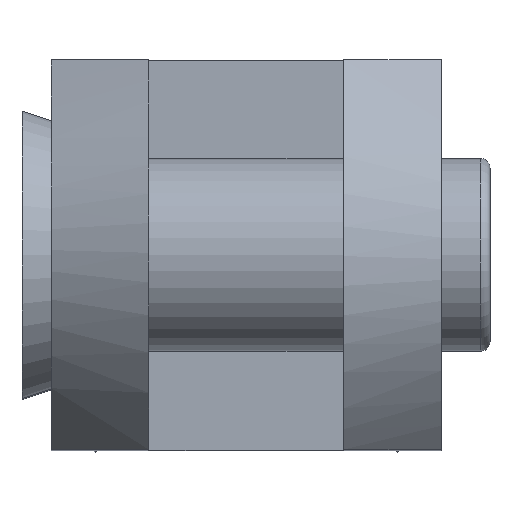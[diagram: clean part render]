
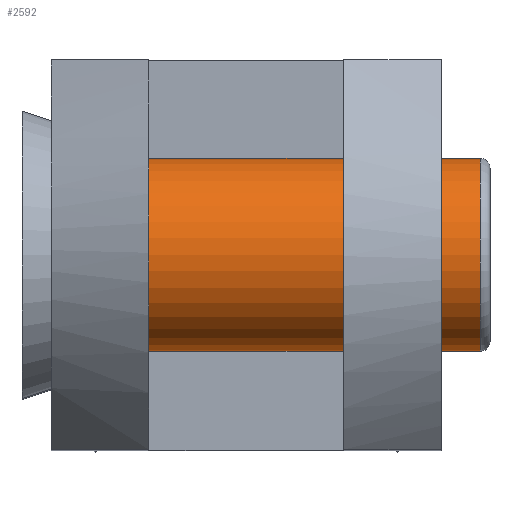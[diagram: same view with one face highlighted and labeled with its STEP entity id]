
A CAD part, top view. The second image highlights one B-rep face of the part: STEP entity #2592.
In plain terms, the highlighted cylindrical face has radius 9.9 mm (diameter 19.8 mm), a partial arc.
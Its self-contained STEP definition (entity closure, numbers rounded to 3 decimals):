
#2543=CARTESIAN_POINT('Axis2P3D Location',(-10.,0.,65.353)) ;
#2547=CARTESIAN_POINT('Vertex',(-10.,-9.9,65.353)) ;
#2549=CARTESIAN_POINT('Vertex',(-10.,9.9,65.353)) ;
#2562=CARTESIAN_POINT('Axis2P3D Location',(7.5,0.,65.353)) ;
#2567=CARTESIAN_POINT('Line Origine',(7.5,9.9,65.353)) ;
#2571=CARTESIAN_POINT('Vertex',(24.,9.9,65.353)) ;
#2574=CARTESIAN_POINT('Line Origine',(7.5,-9.9,65.353)) ;
#2578=CARTESIAN_POINT('Vertex',(24.,-9.9,65.353)) ;
#2581=CARTESIAN_POINT('Axis2P3D Location',(24.,0.,65.353)) ;
#2544=DIRECTION('Axis2P3D Direction',(-1.,-0.,-0.)) ;
#2563=DIRECTION('Axis2P3D Direction',(-1.,0.,0.)) ;
#2564=DIRECTION('Axis2P3D XDirection',(0.,-1.,0.)) ;
#2568=DIRECTION('Vector Direction',(-1.,0.,0.)) ;
#2575=DIRECTION('Vector Direction',(-1.,0.,0.)) ;
#2582=DIRECTION('Axis2P3D Direction',(-1.,0.,0.)) ;
#2545=AXIS2_PLACEMENT_3D('Circle Axis2P3D',#2543,#2544,$) ;
#2565=AXIS2_PLACEMENT_3D('Cylinder Axis2P3D',#2562,#2563,#2564) ;
#2583=AXIS2_PLACEMENT_3D('Circle Axis2P3D',#2581,#2582,$) ;
#2587=ORIENTED_EDGE('',*,*,#2573,.T.) ;
#2588=ORIENTED_EDGE('',*,*,#2551,.F.) ;
#2589=ORIENTED_EDGE('',*,*,#2580,.F.) ;
#2590=ORIENTED_EDGE('',*,*,#2585,.T.) ;
#2569=VECTOR('Line Direction',#2568,1.) ;
#2576=VECTOR('Line Direction',#2575,1.) ;
#2592=ADVANCED_FACE('PartBody',(#2591),#2566,.T.) ;
#2546=CIRCLE('generated circle',#2545,9.9) ;
#2584=CIRCLE('generated circle',#2583,9.9) ;
#2566=CYLINDRICAL_SURFACE('generated cylinder',#2565,9.9) ;
#2551=EDGE_CURVE('',#2548,#2550,#2546,.T.) ;
#2573=EDGE_CURVE('',#2572,#2550,#2570,.T.) ;
#2580=EDGE_CURVE('',#2579,#2548,#2577,.T.) ;
#2585=EDGE_CURVE('',#2579,#2572,#2584,.T.) ;
#2586=EDGE_LOOP('',(#2587,#2588,#2589,#2590)) ;
#2591=FACE_OUTER_BOUND('',#2586,.T.) ;
#2570=LINE('Line',#2567,#2569) ;
#2577=LINE('Line',#2574,#2576) ;
#2548=VERTEX_POINT('',#2547) ;
#2550=VERTEX_POINT('',#2549) ;
#2572=VERTEX_POINT('',#2571) ;
#2579=VERTEX_POINT('',#2578) ;
